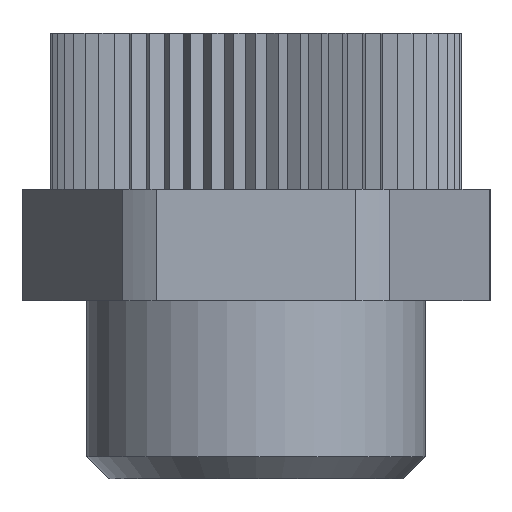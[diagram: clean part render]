
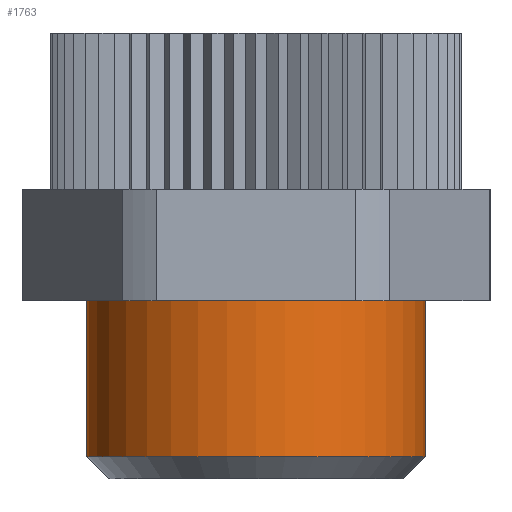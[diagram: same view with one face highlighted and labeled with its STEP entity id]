
A CAD part, left-side view. The second image highlights one B-rep face of the part: STEP entity #1763.
In plain terms, the highlighted cylindrical face has radius 7.6 mm (diameter 15.2 mm), a partial arc.
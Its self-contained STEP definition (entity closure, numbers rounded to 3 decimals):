
#343 = EDGE_CURVE ( 'NONE', #377, #505, #3814, .T. ) ;
#377 = VERTEX_POINT ( 'NONE', #3726 ) ;
#437 = VERTEX_POINT ( 'NONE', #3838 ) ;
#503 = EDGE_CURVE ( 'NONE', #437, #504, #3915, .T. ) ;
#504 = VERTEX_POINT ( 'NONE', #3911 ) ;
#505 = VERTEX_POINT ( 'NONE', #3910 ) ;
#1763 = ADVANCED_FACE ( 'NONE', ( #5803 ), #5802, .T. ) ;
#1778 = EDGE_LOOP ( 'NONE', ( #1812, #1813, #1790, #1877 ) ) ;
#1790 = ORIENTED_EDGE ( 'NONE', *, *, #343, .T. ) ;
#1812 = ORIENTED_EDGE ( 'NONE', *, *, #503, .F. ) ;
#1813 = ORIENTED_EDGE ( 'NONE', *, *, #1884, .T. ) ;
#1877 = ORIENTED_EDGE ( 'NONE', *, *, #1930, .F. ) ;
#1884 = EDGE_CURVE ( 'NONE', #437, #377, #6135, .T. ) ;
#1930 = EDGE_CURVE ( 'NONE', #504, #505, #6223, .T. ) ;
#3726 = CARTESIAN_POINT ( 'NONE',  ( 0., -7.6, -19. ) ) ;
#3771 = DIRECTION ( 'NONE',  ( 0., 0., 1. ) ) ;
#3772 = VECTOR ( 'NONE', #3771, 1000. ) ;
#3773 = CARTESIAN_POINT ( 'NONE',  ( 0., -7.6, 0. ) ) ;
#3814 = LINE ( 'NONE', #3773, #3772 ) ;
#3838 = CARTESIAN_POINT ( 'NONE',  ( 0., 7.6, -19. ) ) ;
#3910 = CARTESIAN_POINT ( 'NONE',  ( 0., -7.6, -12. ) ) ;
#3911 = CARTESIAN_POINT ( 'NONE',  ( 0., 7.6, -12. ) ) ;
#3912 = DIRECTION ( 'NONE',  ( 0., 0., 1. ) ) ;
#3913 = VECTOR ( 'NONE', #3912, 1000. ) ;
#3914 = CARTESIAN_POINT ( 'NONE',  ( 0., 7.6, 0. ) ) ;
#3915 = LINE ( 'NONE', #3914, #3913 ) ;
#5800 = CARTESIAN_POINT ( 'NONE',  ( 0., 0., 0. ) ) ;
#5802 = CYLINDRICAL_SURFACE ( 'NONE', #5895, 7.6 ) ;
#5803 = FACE_OUTER_BOUND ( 'NONE', #1778, .T. ) ;
#5893 = DIRECTION ( 'NONE',  ( 0., -1., 0. ) ) ;
#5894 = DIRECTION ( 'NONE',  ( 0., 0., 1. ) ) ;
#5895 = AXIS2_PLACEMENT_3D ( 'NONE', #5800, #5894, #5893 ) ;
#6131 = DIRECTION ( 'NONE',  ( 0., -1., 0. ) ) ;
#6132 = DIRECTION ( 'NONE',  ( 0., 0., 1. ) ) ;
#6133 = CARTESIAN_POINT ( 'NONE',  ( 0., 0., -19. ) ) ;
#6134 = AXIS2_PLACEMENT_3D ( 'NONE', #6133, #6132, #6131 ) ;
#6135 = CIRCLE ( 'NONE', #6134, 7.6 ) ;
#6219 = DIRECTION ( 'NONE',  ( 0., -1., 0. ) ) ;
#6220 = DIRECTION ( 'NONE',  ( 0., 0., 1. ) ) ;
#6221 = CARTESIAN_POINT ( 'NONE',  ( 0., 0., -12. ) ) ;
#6222 = AXIS2_PLACEMENT_3D ( 'NONE', #6221, #6220, #6219 ) ;
#6223 = CIRCLE ( 'NONE', #6222, 7.6 ) ;
